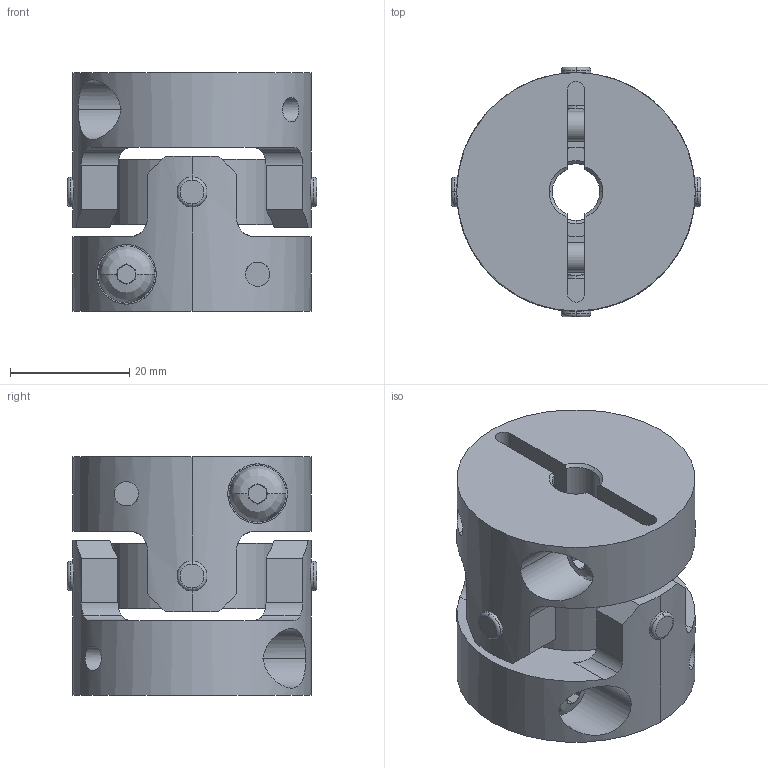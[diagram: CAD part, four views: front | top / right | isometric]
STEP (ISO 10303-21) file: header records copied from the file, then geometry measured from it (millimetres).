
FILE_DESCRIPTION((''),'2;1');
FILE_NAME('UA-40C-8×9.525.stp','2013-11-19T08:34:30',(''),(''),'AutoCAD STEP 2000i','AutoCAD 2000i',', , ');
FILE_SCHEMA(('CONFIG_CONTROL_DESIGN'));
Length unit declared in the file: millimetre
Products named in the file (6): UA-40C-8×8; 忣兜1; UA-4002-D08-1; BTN-M5; UA-4002-D08; UA40-SEN
Assembly tree (6 placements, depth 3):
  UA-40C-8×8
    忣兜1
    UA-4002-D08-1
      BTN-M5
    UA-4002-D08
      BTN-M5
    UA40-SEN
Bounding box: 41.81 x 41.81 x 40 mm (x, y, z)
Volume: 35013.4 mm3; surface area: 15681.3 mm2
Topology: 1 solids, 1 shells, 250 faces, 646 edges, 408 vertices
Faces by surface type: plane 122, cylinder 96, cone 16, bspline 8, torus 8
Entity records: 9627 total; most frequent: CARTESIAN_POINT 3371, ORIENTED_EDGE 1292, DIRECTION 1288, EDGE_CURVE 646, AXIS2_PLACEMENT_3D 497, VERTEX_POINT 408, VECTOR 294, LINE 294
